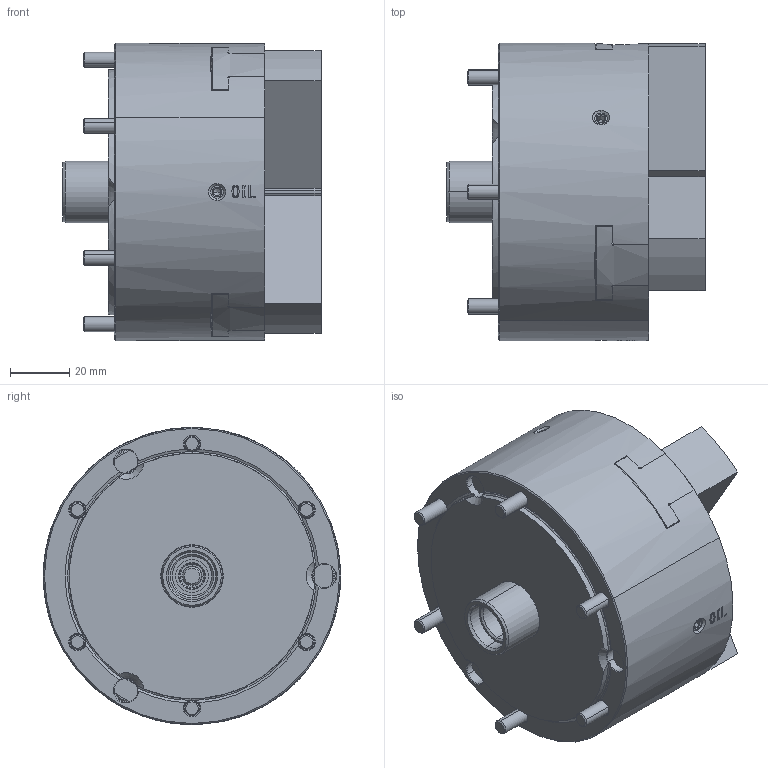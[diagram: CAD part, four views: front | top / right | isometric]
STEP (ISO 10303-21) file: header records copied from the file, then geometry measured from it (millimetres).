
FILE_DESCRIPTION (( 'STEP AP214' ), '1' );
FILE_NAME ('DEV-KPC43C048-OUTSIDE_VIEW_UC.STEP', '2023-12-21T05:10:48', ( '' ), ( '' ), 'SwSTEP 2.0', 'SolidWorks 2022', '' );
FILE_SCHEMA (( 'AUTOMOTIVE_DESIGN' ));
Length unit declared in the file: millimetre
Products named in the file (7): Copy of 0030105055^DEV-KPC43C048-クミタテ; Copy of 0030105016^DEV-KPC43C048-クミタテ; Copy of 61P306265^DEV-KPC43C048-クミタテ; DEV-KPC43C048-OUTSIDE_VIEW_UC; Copy of 0284210012^DEV-KPC43C048-クミタテ; Copy of 61P418231^DEV-KPC43C048-クミタテ; Part14^DEV-KPC43C048-クミタテ
Assembly tree (26 placements, depth 2):
  DEV-KPC43C048-OUTSIDE_VIEW_UC
    Copy of 61P306265^DEV-KPC43C048-クミタテ  x3
    Copy of 61P418231^DEV-KPC43C048-クミタテ
    Copy of 0030105055^DEV-KPC43C048-クミタテ  x6
    Copy of 0030105016^DEV-KPC43C048-クミタテ  x6
    Copy of 0284210012^DEV-KPC43C048-クミタテ  x9
    Part14^DEV-KPC43C048-クミタテ
Bounding box: 86.8 x 100 x 100 mm (x, y, z)
Volume: 449377.4 mm3; surface area: 76114.1 mm2
Topology: 28 solids, 31 shells, 1799 faces, 4486 edges, 2826 vertices
Faces by surface type: plane 796, cone 431, cylinder 360, bspline 180, torus 32
Entity records: 50833 total; most frequent: CARTESIAN_POINT 16504, ORIENTED_EDGE 7304, DIRECTION 6471, EDGE_CURVE 3652, VERTEX_POINT 2338, AXIS2_PLACEMENT_3D 2177, LINE 2117, VECTOR 2117
